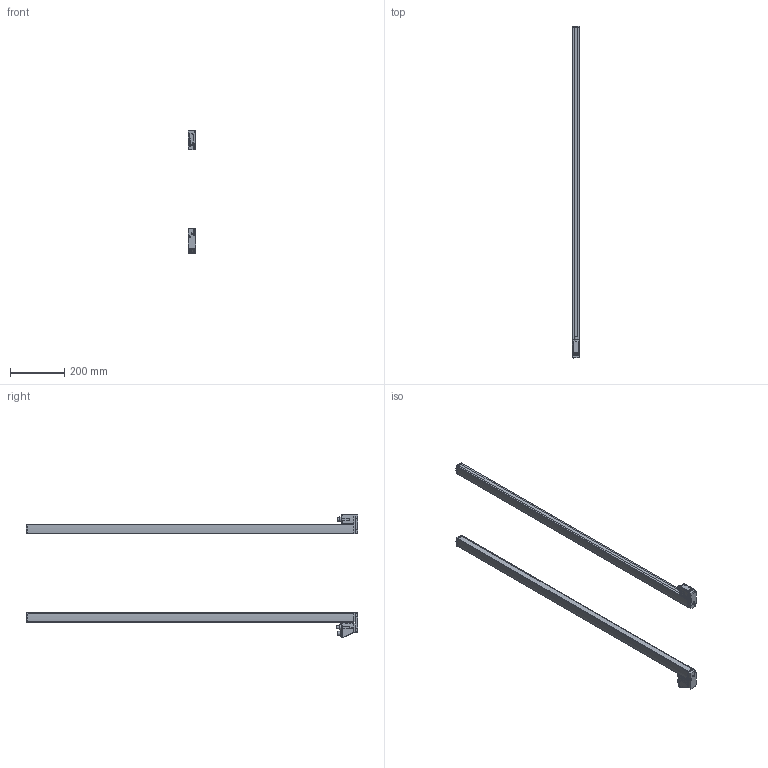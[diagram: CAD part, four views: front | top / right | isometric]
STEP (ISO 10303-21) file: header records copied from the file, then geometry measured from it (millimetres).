
FILE_DESCRIPTION(/* description */ (''),/* implementation_level */ '2;1');
FILE_NAME(/* name */ '3D_CML_700_1200_R.stp',/* time_stamp */ '2013-03-07T11:54:35+01:00',/* author */ (''),/* organization */ (''),/* preprocessor_version */ 'ST-DEVELOPER v11',/* originating_system */ 'SIEMENS UGS NX 6.0',/* authorisation */ '');
FILE_SCHEMA (('AUTOMOTIVE_DESIGN { 1 0 10303 214 1 1 1 1 }'));
Length unit declared in the file: millimetre
Products named in the file (10): M12-X_A; 002491_00.0; 001890_B; 002487_00.0; 002486_00.0; 002485_00.0; 002501_00.0_MODEL; 002492_00.1; 002484_00.1_MODEL; 002489_20.0
Assembly tree (10 placements, depth 4):
  002489_20.0
    002484_00.1_MODEL
      002485_00.0
      002486_00.0
      002487_00.0
      001890_B
    002492_00.1
      002485_00.0
      002491_00.0
      002501_00.0_MODEL
        M12-X_A
Bounding box: 29.39 x 1223.2 x 453.44 mm (x, y, z)
Volume: 2224358.4 mm3; surface area: 435230.7 mm2
Topology: 9 solids, 18 shells, 4040 faces, 10974 edges, 7006 vertices
Faces by surface type: plane 1996, cylinder 943, bspline 428, cone 260, torus 156, revolution 121, extrusion 87, sphere 49
Full cylindrical faces by diameter (mm): 0.4 x1, 0.75 x1, 0.85 x1, 1 x11, 1.25 x7, 1.4 x1, 2 x4, 2.5 x1, 2.6 x13, 3.2 x4, 3.3 x1, 3.5 x10, 3.7 x2, 4 x7, 4.2 x3, 6 x2, 6.7 x8, 7 x5, 8 x1, 8.6 x2, 9.3 x2, 10 x1, 10.11 x1, 12 x2, 13.98 x1, 15.6 x1, 18 x2
Entity records: 206107 total; most frequent: CARTESIAN_POINT 102243, ORIENTED_EDGE 20910, DIRECTION 18712, EDGE_CURVE 10455, VERTEX_POINT 6800, AXIS2_PLACEMENT_3D 6322, VECTOR 5947, LINE 5860
